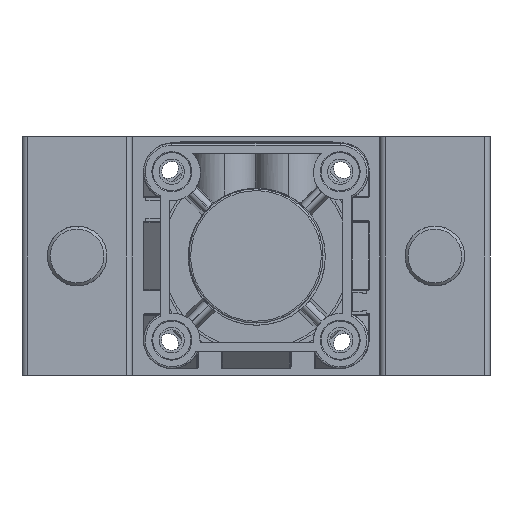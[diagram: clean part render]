
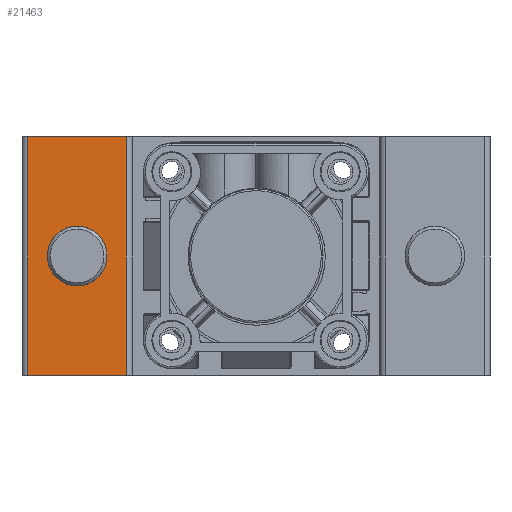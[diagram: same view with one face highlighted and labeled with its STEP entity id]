
A CAD part, front view. The second image highlights one B-rep face of the part: STEP entity #21463.
In plain terms, the highlighted planar face has unit normal (0, -1, 0).
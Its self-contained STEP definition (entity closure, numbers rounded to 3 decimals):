
#769 = EDGE_CURVE ( 'NONE', #38116, #22163, #36331, .T. ) ;
#875 = DIRECTION ( 'NONE',  ( 1., 0., 0. ) ) ;
#2242 = CIRCLE ( 'NONE', #40319, 10. ) ;
#3850 = CIRCLE ( 'NONE', #5666, 10. ) ;
#3926 = VECTOR ( 'NONE', #17087, 1000. ) ;
#4214 = ORIENTED_EDGE ( 'NONE', *, *, #27739, .F. ) ;
#4845 = VECTOR ( 'NONE', #875, 1000. ) ;
#5666 = AXIS2_PLACEMENT_3D ( 'NONE', #33233, #14454, #36418 ) ;
#6393 = CARTESIAN_POINT ( 'NONE',  ( 18.5, -167., 30. ) ) ;
#7368 = FACE_BOUND ( 'NONE', #23310, .T. ) ;
#7783 = ORIENTED_EDGE ( 'NONE', *, *, #28164, .T. ) ;
#9700 = ORIENTED_EDGE ( 'NONE', *, *, #769, .T. ) ;
#9997 = CARTESIAN_POINT ( 'NONE',  ( 2., -167., 80. ) ) ;
#11492 = CARTESIAN_POINT ( 'NONE',  ( 2., -167., 0. ) ) ;
#11625 = EDGE_CURVE ( 'NONE', #12301, #37672, #30891, .T. ) ;
#11712 = EDGE_CURVE ( 'NONE', #38765, #30276, #3850, .T. ) ;
#12301 = VERTEX_POINT ( 'NONE', #30184 ) ;
#12304 = CARTESIAN_POINT ( 'NONE',  ( 35., -167., 0. ) ) ;
#12761 = DIRECTION ( 'NONE',  ( 1., 0., 0. ) ) ;
#13660 = CARTESIAN_POINT ( 'NONE',  ( 35., -167., 80. ) ) ;
#14454 = DIRECTION ( 'NONE',  ( 0., -1., 0. ) ) ;
#15009 = PLANE ( 'NONE',  #24636 ) ;
#15401 = DIRECTION ( 'NONE',  ( 0., -1., 0. ) ) ;
#17087 = DIRECTION ( 'NONE',  ( 0., 0., -1. ) ) ;
#17536 = EDGE_LOOP ( 'NONE', ( #9700, #24369, #33475, #7783 ) ) ;
#18124 = CARTESIAN_POINT ( 'NONE',  ( 35., -167., 80. ) ) ;
#18165 = DIRECTION ( 'NONE',  ( -1., 0., 0. ) ) ;
#19447 = DIRECTION ( 'NONE',  ( 0., 0., -1. ) ) ;
#20612 = VECTOR ( 'NONE', #12761, 1000. ) ;
#21309 = EDGE_CURVE ( 'NONE', #37672, #22163, #28975, .T. ) ;
#21463 = ADVANCED_FACE ( 'NONE', ( #7368, #24068 ), #15009, .F. ) ;
#22163 = VERTEX_POINT ( 'NONE', #12304 ) ;
#23310 = EDGE_LOOP ( 'NONE', ( #4214, #27878 ) ) ;
#24068 = FACE_OUTER_BOUND ( 'NONE', #17536, .T. ) ;
#24369 = ORIENTED_EDGE ( 'NONE', *, *, #21309, .F. ) ;
#24636 = AXIS2_PLACEMENT_3D ( 'NONE', #27326, #36975, #18165 ) ;
#24902 = CARTESIAN_POINT ( 'NONE',  ( 18.5, -167., 50. ) ) ;
#27326 = CARTESIAN_POINT ( 'NONE',  ( 35., -167., 80. ) ) ;
#27739 = EDGE_CURVE ( 'NONE', #30276, #38765, #2242, .T. ) ;
#27878 = ORIENTED_EDGE ( 'NONE', *, *, #11712, .F. ) ;
#28164 = EDGE_CURVE ( 'NONE', #12301, #38116, #33161, .T. ) ;
#28975 = LINE ( 'NONE', #13660, #3926 ) ;
#30184 = CARTESIAN_POINT ( 'NONE',  ( 2., -167., 80. ) ) ;
#30276 = VERTEX_POINT ( 'NONE', #6393 ) ;
#30891 = LINE ( 'NONE', #38507, #4845 ) ;
#31565 = CARTESIAN_POINT ( 'NONE',  ( 35., -167., 0. ) ) ;
#33161 = LINE ( 'NONE', #9997, #40539 ) ;
#33233 = CARTESIAN_POINT ( 'NONE',  ( 18.5, -167., 40. ) ) ;
#33475 = ORIENTED_EDGE ( 'NONE', *, *, #11625, .F. ) ;
#34169 = CARTESIAN_POINT ( 'NONE',  ( 18.5, -167., 40. ) ) ;
#36331 = LINE ( 'NONE', #31565, #20612 ) ;
#36418 = DIRECTION ( 'NONE',  ( 0., 0., -1. ) ) ;
#36975 = DIRECTION ( 'NONE',  ( 0., 1., 0. ) ) ;
#37360 = DIRECTION ( 'NONE',  ( 0., 0., -1. ) ) ;
#37672 = VERTEX_POINT ( 'NONE', #18124 ) ;
#38116 = VERTEX_POINT ( 'NONE', #11492 ) ;
#38507 = CARTESIAN_POINT ( 'NONE',  ( 35., -167., 80. ) ) ;
#38765 = VERTEX_POINT ( 'NONE', #24902 ) ;
#40319 = AXIS2_PLACEMENT_3D ( 'NONE', #34169, #15401, #37360 ) ;
#40539 = VECTOR ( 'NONE', #19447, 1000. ) ;
